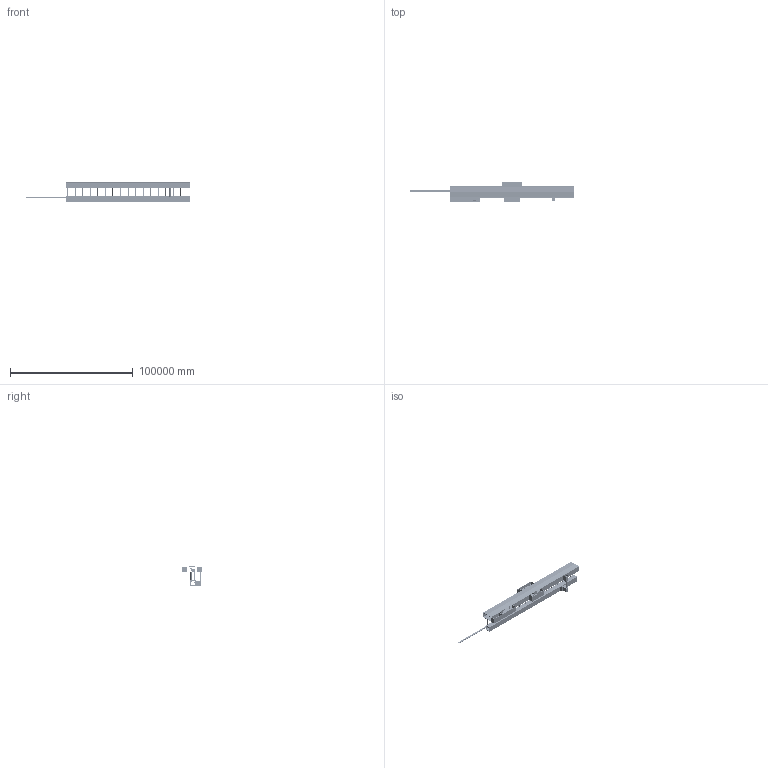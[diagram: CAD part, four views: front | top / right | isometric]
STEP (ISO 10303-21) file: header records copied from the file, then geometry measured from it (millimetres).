
FILE_DESCRIPTION(/* description */ ('Unknown','CAx-IF Rec.Pracs.---Representation and Presentation of Product Manufacturing Information (PMI)---4.0---2014-10-13','CAx-IF Rec.Pracs.---3D Tessellated Geometry---0.4---2014-09-14','2;1'),/* implementation_level */ '2;1');
FILE_NAME(/* name */ 'DSG-000024073-sector_08',/* time_stamp */ '2022-01-14T10:14:35-08:00',/* author */ ('Unknown'),/* organization */ ('Unknown'),/* preprocessor_version */ 'ST-DEVELOPER v16.7',/* originating_system */ 'DEX',/* authorisation */ $);
FILE_SCHEMA (('AP242_MANAGED_MODEL_BASED_3D_ENGINEERING_MIM_LF { 1 0 10303 442 1 1 4 }'));
Products named in the file (172): DSG-000024073; DSG-000017608; REF-000116542; REF-000166917; REF-000116544; REF-000116537; REF-000116543; REF-000116545; DSG-000017645; REF-000113325; REF-000092897; REF-000130374; REF-000144142; REF-000144144; REF-000144143; REF-000113326; REF-000144141; REF-000144140; REF-000144129; DSG-000017647; REF-000092910; REF-000144145; REF-000144147; REF-000144146; REF-000107659; REF-000092902; DSG-000017649; REF-000144249; REF-000109514; REF-000144250; REF-000144311; REF-000109204; REF-000109430; REF-000109226; REF-000109203; REF-000110308; REF-000109229; REF-000109438; REF-000109437; REF-000110068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
Assembly tree (1166 placements, depth 6):
  DSG-000024073
    DSG-000017608
      REF-000116542
        REF-000166917
        REF-000116544
        REF-000116537
        REF-000116543
        REF-000116545
      DSG-000017645
        REF-000166917
        REF-000113325
        REF-000092897
        REF-000130374
        REF-000144142
        REF-000144144
        REF-000144143
        REF-000113326
        REF-000144141
        REF-000144140
        REF-000144129
      DSG-000017647
        REF-000166917
        REF-000092910  x6
        REF-000144145
        REF-000144147
        REF-000144146
        REF-000107659
        REF-000092902
      DSG-000017649
        REF-000166917
        REF-000144249
        REF-000109514  x2
        REF-000144250
        REF-000144311
        REF-000109204  x2
        REF-000109430  x3
        REF-000109226
        REF-000109203  x3
        REF-000110308
        REF-000109229  x5
        REF-000109438
        REF-000109437
        REF-000110068
      DSG-000017677
        REF-000166917
        REF-000144109
        REF-000107639
        REF-000144108
        REF-000144118
        REF-000144111
        REF-000144313
        REF-000144314
        REF-000144312
      DSG-000022281
        REF-000166917
        REF-000144310  x66
      REF-000166917
    DSG-000022278_oa_0
      DSG-000019386
        ref__mr501334__S8_housing-0
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Bounding box: 270904 x 16459.2 x 15875 mm (x, y, z)
Volume: 10397800444234.9 mm3; surface area: 67429676633.1 mm2
Topology: 1277 solids, 1298 shells, 27836 faces, 73395 edges, 47455 vertices
Faces by surface type: plane 15739, cylinder 6775, cone 5146, torus 133, bspline 27, sphere 16
Full cylindrical faces by diameter (mm): 1.4 x2, 2.25 x1, 2.459 x2, 3 x9, 3.2 x1, 3.242 x2, 3.26 x2, 3.3 x2, 4 x14, 4.134 x2, 4.25 x1, 4.3 x1, 4.4 x8, 4.5 x2, 4.8 x2, 4.9 x1, 4.917 x12, 4.96 x4, 5 x6, 5.006 x2, 5.5 x3, 5.6 x2, 6 x35, 6.1 x2, 6.35 x35, 6.4 x12, 6.5 x2, 6.647 x32, 6.66 x18, 6.7 x18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
Entity records: 148849 total; most frequent: CARTESIAN_POINT 25427, DIRECTION 23713, ORIENTED_EDGE 19698, EDGE_CURVE 9852, AXIS2_PLACEMENT_3D 8735, VERTEX_POINT 7133, FACE_BOUND 6927, EDGE_LOOP 6859
